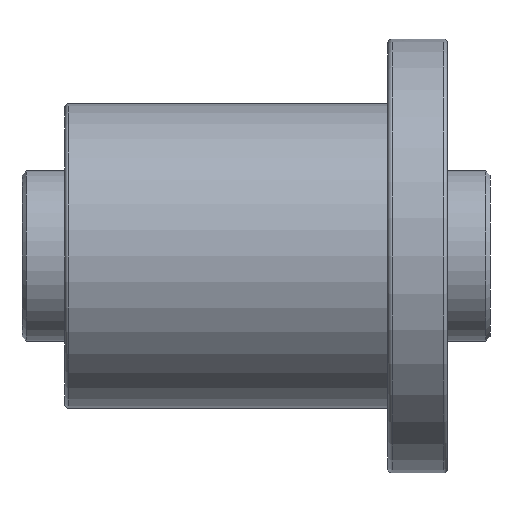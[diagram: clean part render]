
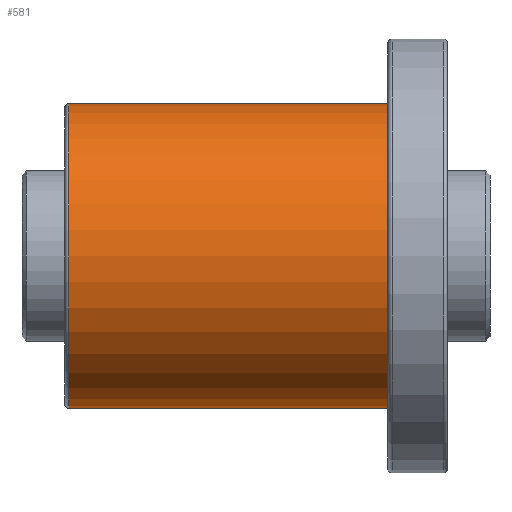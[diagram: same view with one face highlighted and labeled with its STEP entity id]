
A CAD part, front view. The second image highlights one B-rep face of the part: STEP entity #581.
In plain terms, the highlighted cylindrical face has radius 71.5 mm (diameter 143 mm), a full revolution.
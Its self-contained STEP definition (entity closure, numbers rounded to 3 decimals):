
#207 = AXIS2_PLACEMENT_3D ( 'NONE', #951, #1818, #1202 ) ;
#226 = VERTEX_POINT ( 'NONE', #1979 ) ;
#291 = CARTESIAN_POINT ( 'NONE',  ( -48., 0., 0. ) ) ;
#329 = FACE_OUTER_BOUND ( 'NONE', #1812, .T. ) ;
#551 = DIRECTION ( 'NONE',  ( 0., 0., -1. ) ) ;
#581 = ADVANCED_FACE ( 'NONE', ( #329, #2736 ), #2015, .T. ) ;
#619 = EDGE_CURVE ( 'NONE', #226, #226, #2305, .T. ) ;
#725 = CARTESIAN_POINT ( 'NONE',  ( -198., 0., 0. ) ) ;
#754 = DIRECTION ( 'NONE',  ( 1., 0., 0. ) ) ;
#912 = DIRECTION ( 'NONE',  ( 0., 0., -1. ) ) ;
#944 = CARTESIAN_POINT ( 'NONE',  ( -48., 0., -71.5 ) ) ;
#951 = CARTESIAN_POINT ( 'NONE',  ( -220., 0., 0. ) ) ;
#1158 = EDGE_LOOP ( 'NONE', ( #2016 ) ) ;
#1194 = VERTEX_POINT ( 'NONE', #944 ) ;
#1202 = DIRECTION ( 'NONE',  ( 0., 0., -1. ) ) ;
#1503 = EDGE_CURVE ( 'NONE', #1194, #1194, #2029, .T. ) ;
#1804 = ORIENTED_EDGE ( 'NONE', *, *, #1503, .F. ) ;
#1812 = EDGE_LOOP ( 'NONE', ( #1804 ) ) ;
#1818 = DIRECTION ( 'NONE',  ( 1., 0., 0. ) ) ;
#1880 = AXIS2_PLACEMENT_3D ( 'NONE', #725, #754, #551 ) ;
#1979 = CARTESIAN_POINT ( 'NONE',  ( -198., 0., -71.5 ) ) ;
#2015 = CYLINDRICAL_SURFACE ( 'NONE', #207, 71.5 ) ;
#2016 = ORIENTED_EDGE ( 'NONE', *, *, #619, .T. ) ;
#2022 = DIRECTION ( 'NONE',  ( 1., 0., 0. ) ) ;
#2029 = CIRCLE ( 'NONE', #2625, 71.5 ) ;
#2305 = CIRCLE ( 'NONE', #1880, 71.5 ) ;
#2625 = AXIS2_PLACEMENT_3D ( 'NONE', #291, #2022, #912 ) ;
#2736 = FACE_OUTER_BOUND ( 'NONE', #1158, .T. ) ;
